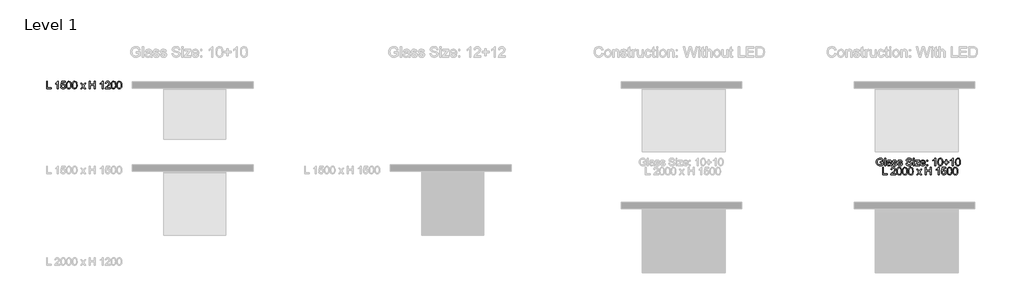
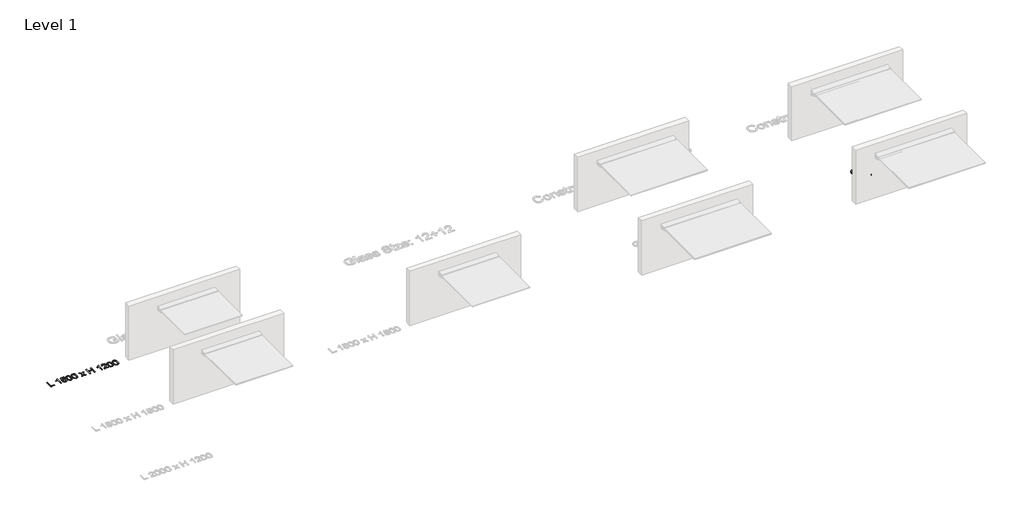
# One storey, part 5 of 7: 2 proxies.
"""IFC4 building model written with IfcOpenShell, lengths in millimetres."""

from ifc_helpers import new_model, si_unit, origin, origin_with_axes, place, context, project, spatial, polyline, outline, extrude, element, save

model = new_model("IFC4")

# Units and contexts
model_context = context("Model", 3, world=origin())
ifc_project = project(units=[si_unit("LENGTHUNIT", "METRE", prefix="MILLI")], contexts=[model_context])

# Site, building, storey
site = spatial("IfcSite", under=ifc_project)
building = spatial("IfcBuilding", under=site)
storey = spatial("IfcBuildingStorey", under=building, Name="Level 1", Elevation=0.0)

# Proxies
placement = place(None, origin())
element("IfcBuildingElementProxy", 1, Name="600mm Arial 3", ObjectType="600mm Arial 3", at=placement, inside=storey, context=model_context, shape_type="SweptSolid", body=[
    extrude(outline(polyline([(2272.1620309, 540.7311212), (2272.1620309, 721.5524795), (2294.7647007, 721.5524795), (2294.7647007, 563.333791), (2385.1753798, 563.333791), (2385.1753798, 540.7311212), (2272.1620309, 540.7311212)])), origin_with_axes(), (0.0, 0.0, 1.0), 5.0),
    extrude(outline(polyline([(2557.5207369, 540.7311212), (2534.9180672, 540.7311212), (2534.9180672, 681.6446406), (2513.507335, 666.3922531), (2489.7127276, 654.9805536), (2489.7127276, 676.3471399), (2522.8441801, 697.492997), (2542.9526099, 721.5524795), (2557.5207369, 721.5524795), (2557.5207369, 540.7311212)])), origin_with_axes(), (0.0, 0.0, 1.0), 5.0),
    extrude(outline(polyline([(2611.2020777, 588.7617945), (2633.8047475, 591.5871282), (2637.9544564, 578.0178008), (2645.194374, 568.3001979), (2655.4913911, 562.4563924), (2668.8123981, 560.5084573), (2685.0139212, 563.2179082), (2697.154027, 571.3462608), (2704.7360749, 583.9554162), (2707.2634243, 600.1072752), (2704.8961036, 615.3155169), (2697.7941417, 626.9479456), (2685.9023562, 634.3313372), (2669.1655648, 636.7924678), (2649.32201, 632.8634881), (2636.6300812, 622.6657992), (2614.0274114, 625.4911329), (2633.8047475, 718.7271457), (2721.3900929, 718.7271457), (2721.3900929, 696.124476), (2652.081125, 696.124476), (2642.3690403, 646.3279691), (2658.5153811, 656.1283454), (2675.434274, 659.3951376), (2696.5580582, 655.3447568), (2714.1060294, 643.1936145), (2725.9260779, 624.6744349), (2729.866094, 601.5199421), (2726.3233904, 578.9172723), (2715.6952796, 559.5813946), (2695.3440476, 543.3246893), (2668.7241064, 537.9057875), (2646.5242674, 541.3877906), (2628.8383405, 551.8337998), (2616.7147894, 568.0298047), (2611.2020777, 588.7617945)])), origin_with_axes(), (0.0, 0.0, 1.0), 5.0),
    extrude(outline(polyline([(2749.6434301, 629.6849876), (2751.3044173, 658.6281036), (2756.2873789, 681.7108594), (2764.5426509, 699.2864217), (2776.0205692, 711.7079573), (2790.8039071, 719.0913489), (2808.9754383, 721.5524795), (2835.3746503, 715.7252287), (2845.8041048, 708.6122303), (2853.6068819, 698.9277368), (2864.2018834, 672.1753581), (2868.3074465, 629.6849876), (2866.6630139, 600.9074186), (2861.7297164, 577.8798451), (2853.5241085, 560.2877281), (2842.0627449, 547.8165284), (2827.2462976, 540.3834727), (2808.9754383, 537.9057875), (2785.4898517, 542.2100068), (2767.6549326, 555.1226649), (2759.7749002, 568.7388972), (2754.1463057, 585.7046951), (2749.6434301, 629.6849876)]), holes=[polyline([(2772.2460999, 629.7291335), (2774.8948502, 594.175178), (2782.8411013, 573.5976986), (2794.6721863, 563.7807676), (2808.9754383, 560.5084573), (2823.2786903, 563.7918041), (2835.1097752, 573.6418445), (2843.0560263, 594.2303603), (2845.7047767, 629.7291335), (2843.144318, 664.4829456), (2835.4629419, 685.2204536), (2823.6539299, 695.5174707), (2808.7105632, 698.9498097), (2794.5618217, 695.9258197), (2783.1942681, 686.8538497), (2774.9831419, 664.8250758), (2772.2460999, 629.7291335)])]), origin_with_axes(), (0.0, 0.0, 1.0), 5.0),
    extrude(outline(polyline([(2888.0847825, 629.6849876), (2889.7457697, 658.6281036), (2894.7287314, 681.7108594), (2902.9840033, 699.2864217), (2914.4619216, 711.7079573), (2929.2452596, 719.0913489), (2947.4167907, 721.5524795), (2973.8160027, 715.7252287), (2984.2454572, 708.6122303), (2992.0482344, 698.9277368), (3002.6432358, 672.1753581), (3006.7487989, 629.6849876), (3005.1043664, 600.9074186), (3000.1710688, 577.8798451), (2991.9654609, 560.2877281), (2980.5040974, 547.8165284), (2965.68765, 540.3834727), (2947.4167907, 537.9057875), (2923.9312041, 542.2100068), (2906.096285, 555.1226649), (2898.2162527, 568.7388972), (2892.5876581, 585.7046951), (2888.0847825, 629.6849876)]), holes=[polyline([(2910.6874523, 629.7291335), (2913.3362027, 594.175178), (2921.2824538, 573.5976986), (2933.1135387, 563.7807676), (2947.4167907, 560.5084573), (2961.7200427, 563.7918041), (2973.5511276, 573.6418445), (2981.4973787, 594.2303603), (2984.1461291, 629.7291335), (2981.5856704, 664.4829456), (2973.9042944, 685.2204536), (2962.0952823, 695.5174707), (2947.1519157, 698.9498097), (2933.0031741, 695.9258197), (2921.6356205, 686.8538497), (2913.4244944, 664.8250758), (2910.6874523, 629.7291335)])]), origin_with_axes(), (0.0, 0.0, 1.0), 5.0),
    extrude(outline(polyline([(3088.6834769, 540.7311212), (3136.9790252, 607.5237762), (3091.5088106, 673.5218062), (3118.614356, 673.5218062), (3140.5548382, 641.692656), (3150.8408188, 626.7272164), (3159.7582783, 638.9997598), (3184.7448234, 673.5218062), (3211.9386605, 673.5218062), (3164.1728623, 607.4796304), (3210.1728269, 540.7311212), (3183.0231357, 540.7311212), (3155.2995485, 580.9038351), (3150.2669228, 588.2761903), (3115.8773139, 540.7311212), (3088.6834769, 540.7311212)])), origin_with_axes(), (0.0, 0.0, 1.0), 5.0),
    extrude(outline(polyline([(3303.4088398, 540.7311212), (3303.4088398, 721.5524795), (3326.0115096, 721.5524795), (3326.0115096, 648.0938027), (3422.0728562, 648.0938027), (3422.0728562, 721.5524795), (3444.6755259, 721.5524795), (3444.6755259, 540.7311212), (3422.0728562, 540.7311212), (3422.0728562, 625.4911329), (3326.0115096, 625.4911329), (3326.0115096, 540.7311212), (3303.4088398, 540.7311212)])), origin_with_axes(), (0.0, 0.0, 1.0), 5.0),
    extrude(outline(polyline([(3631.1475517, 540.7311212), (3608.5448819, 540.7311212), (3608.5448819, 681.6446406), (3587.1341498, 666.3922531), (3563.3395423, 654.9805536), (3563.3395423, 676.3471399), (3596.4709948, 697.492997), (3616.5794247, 721.5524795), (3631.1475517, 721.5524795), (3631.1475517, 540.7311212)])), origin_with_axes(), (0.0, 0.0, 1.0), 5.0),
    extrude(outline(polyline([(3800.667575, 563.333791), (3800.667575, 540.7311212), (3682.0035587, 540.7311212), (3684.4315798, 556.3146025), (3698.1830088, 580.3078662), (3726.5025648, 606.5084219), (3765.5054139, 644.164823), (3772.8060321, 657.1436998), (3775.2395715, 669.7694098), (3772.9384697, 681.0872994), (3766.035164, 690.4958814), (3755.4236079, 696.8363276), (3741.9977544, 698.9498097), (3727.898677, 696.8859917), (3716.9449906, 690.6945377), (3709.876138, 680.861052), (3707.4315622, 667.8711387), (3684.8288924, 670.6964725), (3690.3084947, 692.5596994), (3702.1561344, 708.5294568), (3719.7537696, 718.2967238), (3742.4833587, 721.5524795), (3765.3784947, 717.9325206), (3782.9430205, 707.0726441), (3794.1174361, 690.8490482), (3797.8422413, 671.1379308), (3793.8249699, 649.7051258), (3780.4708535, 627.5439144), (3748.0898803, 596.5756081), (3722.0879809, 574.8337822), (3711.890292, 563.333791), (3800.667575, 563.333791)])), origin_with_axes(), (0.0, 0.0, 1.0), 5.0),
    extrude(outline(polyline([(3823.2702448, 629.6849876), (3824.931232, 658.6281036), (3829.9141937, 681.7108594), (3838.1694656, 699.2864217), (3849.6473839, 711.7079573), (3864.4307219, 719.0913489), (3882.602253, 721.5524795), (3909.001465, 715.7252287), (3919.4309195, 708.6122303), (3927.2336967, 698.9277368), (3937.8286981, 672.1753581), (3941.9342612, 629.6849876), (3940.2898287, 600.9074186), (3935.3565311, 577.8798451), (3927.1509232, 560.2877281), (3915.6895597, 547.8165284), (3900.8731123, 540.3834727), (3882.602253, 537.9057875), (3859.1166664, 542.2100068), (3841.2817473, 555.1226649), (3833.401715, 568.7388972), (3827.7731204, 585.7046951), (3823.2702448, 629.6849876)]), holes=[polyline([(3845.8729146, 629.7291335), (3848.521665, 594.175178), (3856.4679161, 573.5976986), (3868.299001, 563.7807676), (3882.602253, 560.5084573), (3896.905505, 563.7918041), (3908.7365899, 573.6418445), (3916.682841, 594.2303603), (3919.3315914, 629.7291335), (3916.7711327, 664.4829456), (3909.0897567, 685.2204536), (3897.2807446, 695.5174707), (3882.337378, 698.9498097), (3868.1886364, 695.9258197), (3856.8210828, 686.8538497), (3848.6099567, 664.8250758), (3845.8729146, 629.7291335)])]), origin_with_axes(), (0.0, 0.0, 1.0), 5.0),
    extrude(outline(polyline([(3961.7115972, 629.6849876), (3963.3725845, 658.6281036), (3968.3555461, 681.7108594), (3976.6108181, 699.2864217), (3988.0887363, 711.7079573), (4002.8720743, 719.0913489), (4021.0436054, 721.5524795), (4047.4428174, 715.7252287), (4057.872272, 708.6122303), (4065.6750491, 698.9277368), (4076.2700505, 672.1753581), (4080.3756136, 629.6849876), (4078.7311811, 600.9074186), (4073.7978835, 577.8798451), (4065.5922756, 560.2877281), (4054.1309121, 547.8165284), (4039.3144647, 540.3834727), (4021.0436054, 537.9057875), (3997.5580189, 542.2100068), (3979.7230997, 555.1226649), (3971.8430674, 568.7388972), (3966.2144729, 585.7046951), (3961.7115972, 629.6849876)]), holes=[polyline([(3984.314267, 629.7291335), (3986.9630174, 594.175178), (3994.9092685, 573.5976986), (4006.7403535, 563.7807676), (4021.0436054, 560.5084573), (4035.3468574, 563.7918041), (4047.1779424, 573.6418445), (4055.1241935, 594.2303603), (4057.7729438, 629.7291335), (4055.2124851, 664.4829456), (4047.5311091, 685.2204536), (4035.722097, 695.5174707), (4020.7787304, 698.9498097), (4006.6299889, 695.9258197), (3995.2624352, 686.8538497), (3987.0513091, 664.8250758), (3984.314267, 629.7291335)])]), origin_with_axes(), (0.0, 0.0, 1.0), 5.0),
])
element("IfcBuildingElementProxy", 2, Name="600mm Arial 3", ObjectType="600mm Arial 3", at=placement, inside=storey, context=model_context, shape_type="SweptSolid", body=[
    extrude(outline(polyline([(22306.0715057, -1237.1901227), (22306.0715057, -1214.5874529), (22379.5301825, -1214.5874529), (22379.5301825, -1282.174733), (22361.6787087, -1294.5907504), (22343.2643754, -1303.4971735), (22324.3313285, -1308.860893), (22304.9237139, -1310.6487995), (22279.5674473, -1307.8069111), (22256.6502384, -1299.2812458), (22237.6123452, -1285.3697882), (22223.8940256, -1266.3705225), (22215.600126, -1243.5802329), (22212.8354928, -1218.2957034), (22215.5890896, -1192.8290723), (22223.8498798, -1169.1393112), (22237.2757332, -1149.2681652), (22255.5245195, -1135.2573794), (22277.7519497, -1126.9469252), (22303.1137344, -1124.1767737), (22321.7322422, -1125.7825787), (22338.4745518, -1130.5999934), (22352.5736293, -1138.2813694), (22363.2624406, -1148.4790584), (22371.1700641, -1161.6841826), (22376.9255779, -1178.3878646), (22356.0887417, -1184.2592612), (22345.7806882, -1163.3562062), (22328.1664983, -1151.3043921), (22302.7605677, -1146.7794435), (22273.82297, -1151.6575588), (22254.1339256, -1164.4598522), (22242.5014969, -1181.8753859), (22237.2039962, -1198.9377528), (22235.4381626, -1217.3686408), (22237.5626811, -1238.9835474), (22243.9362367, -1256.7688025), (22254.3656913, -1270.5974866), (22268.6579068, -1280.3426807), (22285.3836617, -1286.1202674), (22303.1137344, -1288.0461297), (22334.037895, -1282.2409518), (22356.9275127, -1269.8580438), (22356.9275127, -1237.1901227), (22306.0715057, -1237.1901227)])), origin_with_axes(), (0.0, 0.0, 1.0), 5.0),
    extrude(outline(polyline([(22413.4341871, -1307.8234657), (22413.4341871, -1127.0021075), (22436.0368569, -1127.0021075), (22436.0368569, -1307.8234657), (22413.4341871, -1307.8234657)])), origin_with_axes(), (0.0, 0.0, 1.0), 5.0),
    extrude(outline(polyline([(22554.7008733, -1290.8714634), (22532.782464, -1306.1900697), (22508.5684711, -1310.6487995), (22489.6795701, -1307.9669397), (22475.7460395, -1299.9213605), (22467.1541555, -1287.7039994), (22464.2901942, -1272.5067942), (22468.6164864, -1254.6277292), (22479.9840401, -1241.6488524), (22495.8103235, -1234.2323514), (22515.3669304, -1230.8331218), (22554.5684358, -1223.0634541), (22554.7008733, -1218.0308284), (22553.1447325, -1207.9435041), (22548.4763099, -1201.3437011), (22538.0358189, -1196.4435129), (22523.4897648, -1194.8101168), (22500.62222, -1199.158482), (22494.2100368, -1205.1899073), (22489.7181977, -1214.5874529), (22467.1155279, -1211.7621192), (22476.8938313, -1189.6891995), (22485.2263585, -1182.261662), (22496.5828757, -1176.7544685), (22526.4033902, -1172.207447), (22553.7958836, -1176.2247184), (22569.2690003, -1186.3120427), (22576.1998971, -1201.6527219), (22577.3035431, -1221.430058), (22577.3035431, -1249.5509577), (22578.4513349, -1288.8186819), (22582.9542105, -1307.8234657), (22560.3515407, -1307.8234657), (22554.7008733, -1290.8714634)]), holes=[polyline([(22554.7008733, -1245.6661238), (22518.2364099, -1252.5970206), (22498.7901677, -1256.2611253), (22489.9830727, -1262.2208136), (22486.8928639, -1270.917544), (22488.5759241, -1277.638748), (22493.6251045, -1283.1459415), (22513.3803676, -1288.0461297), (22536.2479124, -1282.6382644), (22550.9926228, -1269.549023), (22554.5684358, -1252.0672706), (22554.7008733, -1245.6661238)])]), origin_with_axes(), (0.0, 0.0, 1.0), 5.0),
    extrude(outline(polyline([(22599.9062129, -1268.2687936), (22622.5088826, -1265.4434599), (22626.0736592, -1275.1113987), (22632.9714466, -1282.2188789), (22643.2463907, -1286.589317), (22656.9426374, -1288.0461297), (22670.4733372, -1286.710718), (22679.9867656, -1282.7044831), (22685.6153601, -1276.8993052), (22687.4915583, -1270.1670647), (22685.6043236, -1264.4060327), (22679.9426197, -1260.0135216), (22656.6777624, -1253.5682291), (22622.6413202, -1242.5096963), (22607.7862452, -1229.5970383), (22602.7315466, -1211.3648066), (22606.7929638, -1194.5231689), (22617.8735695, -1181.6546567), (22632.2430402, -1174.966562), (22651.6892825, -1172.207447), (22679.1921405, -1176.6441039), (22696.6738929, -1188.6517722), (22704.4435606, -1208.9367854), (22681.8408908, -1211.7621192), (22678.987966, -1204.6491208), (22673.3428167, -1199.2909195), (22653.4551161, -1194.8101168), (22631.8236548, -1199.0922632), (22625.3342164, -1209.069223), (22628.0271126, -1215.646953), (22636.4589679, -1220.6354329), (22655.9272831, -1225.4473294), (22689.1028814, -1236.0864767), (22704.5097794, -1248.1382908), (22708.6981159, -1257.0005681), (22710.0942281, -1267.7831894), (22708.4553138, -1278.9300138), (22703.5385709, -1289.4146507), (22695.5316193, -1298.4148837), (22684.6220787, -1305.1084966), (22656.6336165, -1310.6487995), (22633.8433269, -1307.9779762), (22617.2113819, -1299.9655063), (22606.1087033, -1286.6996816), (22599.9062129, -1268.2687936)])), origin_with_axes(), (0.0, 0.0, 1.0), 5.0),
    extrude(outline(polyline([(22727.0462304, -1268.2687936), (22749.6489002, -1265.4434599), (22753.2136767, -1275.1113987), (22760.1114641, -1282.2188789), (22770.3864082, -1286.589317), (22784.0826549, -1288.0461297), (22797.6133547, -1286.710718), (22807.1267831, -1282.7044831), (22812.7553776, -1276.8993052), (22814.6315758, -1270.1670647), (22812.7443412, -1264.4060327), (22807.0826373, -1260.0135216), (22783.8177799, -1253.5682291), (22749.7813377, -1242.5096963), (22734.9262627, -1229.5970383), (22729.8715641, -1211.3648066), (22733.9329813, -1194.5231689), (22745.013587, -1181.6546567), (22759.3830578, -1174.966562), (22778.8293, -1172.207447), (22806.332158, -1176.6441039), (22823.8139104, -1188.6517722), (22831.5835781, -1208.9367854), (22808.9809084, -1211.7621192), (22806.1279835, -1204.6491208), (22800.4828343, -1199.2909195), (22780.5951336, -1194.8101168), (22758.9636723, -1199.0922632), (22752.4742339, -1209.069223), (22755.1671301, -1215.646953), (22763.5989854, -1220.6354329), (22783.0673006, -1225.4473294), (22816.2428989, -1236.0864767), (22831.6497969, -1248.1382908), (22835.8381334, -1257.0005681), (22837.2342456, -1267.7831894), (22835.5953313, -1278.9300138), (22830.6785884, -1289.4146507), (22822.6716368, -1298.4148837), (22811.7620962, -1305.1084966), (22783.7736341, -1310.6487995), (22760.9833445, -1307.9779762), (22744.3513995, -1299.9655063), (22733.2487208, -1286.6996816), (22727.0462304, -1268.2687936)])), origin_with_axes(), (0.0, 0.0, 1.0), 5.0),
    extrude(outline(polyline([(22927.6449247, -1245.6661238), (22950.2475945, -1245.6661238), (22957.531658, -1268.2908665), (22964.8488309, -1276.2922999), (22975.3224313, -1282.5941185), (23002.4279767, -1288.0461297), (23026.0460008, -1283.9184937), (23041.2983883, -1272.573013), (23046.3089411, -1257.4089171), (23042.5565447, -1243.3043214), (23027.1937926, -1233.0404138), (22994.2830693, -1224.4099022), (22958.8560332, -1213.2630777), (22947.6043624, -1205.6589569), (22939.6305201, -1196.4435129), (22934.8793242, -1185.815402), (22933.2955922, -1173.9732806), (22935.2545638, -1160.735047), (22941.1314787, -1148.3907667), (22950.7718264, -1137.9282027), (22964.0210964, -1130.3351183), (22979.9246351, -1125.7163599), (22997.5277885, -1124.1767737), (23016.5987912, -1125.7880969), (23033.2859185, -1130.6220663), (23046.9932016, -1138.5793539), (23057.1246717, -1149.5606314), (23063.5368549, -1162.8816385), (23066.0862772, -1177.8581145), (23043.4836074, -1177.8581145), (23039.3338985, -1164.3715605), (23030.6813139, -1154.6374029), (23017.1616506, -1148.7439334), (22998.4107053, -1146.7794435), (22979.2183016, -1148.7218605), (22966.051805, -1154.5491113), (22958.4366477, -1163.1244406), (22955.898262, -1173.311093), (22957.6972049, -1181.9967869), (22963.0940338, -1188.982866), (22975.8521814, -1195.2295023), (22999.9999555, -1201.6085761), (23039.9960861, -1212.9540568), (23052.8811529, -1221.1541465), (23061.8703495, -1231.2745802), (23067.1512955, -1243.2049933), (23068.9116109, -1256.8350212), (23066.8864205, -1270.7685518), (23060.8108493, -1283.8743479), (23050.9332178, -1295.1536098), (23037.5018461, -1303.6075381), (23021.3499871, -1308.8884841), (23003.3108935, -1310.6487995), (22981.1662368, -1308.7505284), (22962.9395233, -1303.0557151), (22948.4210604, -1293.5422867), (22937.4011552, -1280.1881703), (22930.3267845, -1263.9204284), (22927.6449247, -1245.6661238)])), origin_with_axes(), (0.0, 0.0, 1.0), 5.0),
    extrude(outline(polyline([(23099.9902818, -1149.6047773), (23099.9902818, -1127.0021075), (23122.5929516, -1127.0021075), (23122.5929516, -1149.6047773), (23099.9902818, -1149.6047773)])), origin_with_axes(), (0.0, 0.0, 1.0), 5.0),
    extrude(outline(polyline([(23099.9902818, -1307.8234657), (23099.9902818, -1175.0327808), (23122.5929516, -1175.0327808), (23122.5929516, -1307.8234657), (23099.9902818, -1307.8234657)])), origin_with_axes(), (0.0, 0.0, 1.0), 5.0),
    extrude(outline(polyline([(23142.3702877, -1307.8234657), (23142.3702877, -1286.5451711), (23220.3759859, -1197.6354505), (23197.2877119, -1197.6354505), (23148.0209551, -1197.6354505), (23148.0209551, -1175.0327808), (23252.5583029, -1175.0327808), (23252.5583029, -1194.2362209), (23183.3817725, -1273.124836), (23172.786771, -1285.220796), (23198.921108, -1285.220796), (23255.3836366, -1285.220796), (23255.3836366, -1307.8234657), (23142.3702877, -1307.8234657)])), origin_with_axes(), (0.0, 0.0, 1.0), 5.0),
    extrude(outline(polyline([(23370.9574442, -1268.2687936), (23393.1186556, -1271.0941273), (23385.1337769, -1287.7922911), (23372.392184, -1300.2745272), (23355.1808248, -1308.0552314), (23333.7866474, -1310.6487995), (23307.2660344, -1306.173515), (23286.8596201, -1292.7476616), (23273.8476339, -1271.2431196), (23269.5103052, -1242.5317692), (23273.8917798, -1212.8547287), (23287.0362035, -1190.6604079), (23307.1667062, -1176.8206873), (23332.5064181, -1172.207447), (23357.057023, -1176.8096508), (23376.6743304, -1190.6162621), (23389.5373244, -1212.766437), (23393.824989, -1242.3993317), (23393.6925515, -1248.4914576), (23292.112975, -1248.4914576), (23296.0254, -1265.4103505), (23305.1139247, -1277.8484408), (23318.2307572, -1285.4967075), (23334.2281058, -1288.0461297), (23356.3893172, -1283.3225249), (23364.6225162, -1277.1972896), (23370.9574442, -1268.2687936)]), holes=[polyline([(23292.112975, -1225.8887878), (23371.2223192, -1225.8887878), (23368.1652199, -1213.9473382), (23362.1724222, -1205.4051183), (23348.9948891, -1197.4588672), (23332.4181264, -1194.8101168), (23317.1822936, -1196.9235989), (23304.5841746, -1203.2640451), (23295.8267437, -1213.1471949), (23292.112975, -1225.8887878)])]), origin_with_axes(), (0.0, 0.0, 1.0), 5.0),
    extrude(outline(polyline([(23422.0783262, -1197.6354505), (23422.0783262, -1175.0327808), (23444.680996, -1175.0327808), (23444.680996, -1197.6354505), (23422.0783262, -1197.6354505)])), origin_with_axes(), (0.0, 0.0, 1.0), 5.0),
    extrude(outline(polyline([(23422.0783262, -1307.8234657), (23422.0783262, -1285.220796), (23444.680996, -1285.220796), (23444.680996, -1307.8234657), (23422.0783262, -1307.8234657)])), origin_with_axes(), (0.0, 0.0, 1.0), 5.0),
    extrude(outline(polyline([(23636.8036892, -1307.8234657), (23614.2010194, -1307.8234657), (23614.2010194, -1166.9099463), (23592.7902873, -1182.1623338), (23568.9956798, -1193.5740333), (23568.9956798, -1172.207447), (23602.1271323, -1151.06159), (23622.2355622, -1127.0021075), (23636.8036892, -1127.0021075), (23636.8036892, -1307.8234657)])), origin_with_axes(), (0.0, 0.0, 1.0), 5.0),
    extrude(outline(polyline([(23690.4850299, -1218.8695993), (23692.1460171, -1189.9264833), (23697.1289788, -1166.8437275), (23705.3842507, -1149.2681652), (23716.862169, -1136.8466297), (23731.645507, -1129.463238), (23749.8170381, -1127.0021075), (23776.2162501, -1132.8293583), (23786.6457046, -1139.9423567), (23794.4484818, -1149.6268502), (23805.0434832, -1176.3792289), (23809.1490463, -1218.8695993), (23807.5046138, -1247.6471684), (23802.5713162, -1270.6747419), (23794.3657083, -1288.2668589), (23782.9043448, -1300.7380585), (23768.0878974, -1308.1711142), (23749.8170381, -1310.6487995), (23726.3314515, -1306.3445801), (23708.4965324, -1293.4319221), (23700.6165001, -1279.8156897), (23694.9879055, -1262.8498918), (23690.4850299, -1218.8695993)]), holes=[polyline([(23713.0876997, -1218.8254535), (23715.7364501, -1254.3794089), (23723.6827012, -1274.9568883), (23735.5137861, -1284.7738193), (23749.8170381, -1288.0461297), (23764.1202901, -1284.7627829), (23775.951375, -1274.9127425), (23783.8976261, -1254.3242266), (23786.5463765, -1218.8254535), (23783.9859178, -1184.0716414), (23776.3045418, -1163.3341333), (23764.4955297, -1153.0371163), (23749.5521631, -1149.6047773), (23735.4034215, -1152.6287673), (23724.0358679, -1161.7007373), (23715.8247418, -1183.7295111), (23713.0876997, -1218.8254535)])]), origin_with_axes(), (0.0, 0.0, 1.0), 5.0),
    extrude(outline(polyline([(23879.7823894, -1279.5701285), (23879.7823894, -1231.5394552), (23831.7517161, -1231.5394552), (23831.7517161, -1208.9367854), (23879.7823894, -1208.9367854), (23879.7823894, -1160.9061121), (23902.3850591, -1160.9061121), (23902.3850591, -1208.9367854), (23950.4157324, -1208.9367854), (23950.4157324, -1231.5394552), (23902.3850591, -1231.5394552), (23902.3850591, -1279.5701285), (23879.7823894, -1279.5701285)])), origin_with_axes(), (0.0, 0.0, 1.0), 5.0),
    extrude(outline(polyline([(24060.6037476, -1307.8234657), (24038.0010778, -1307.8234657), (24038.0010778, -1166.9099463), (24016.5903457, -1182.1623338), (23992.7957383, -1193.5740333), (23992.7957383, -1172.207447), (24025.9271908, -1151.06159), (24046.0356206, -1127.0021075), (24060.6037476, -1127.0021075), (24060.6037476, -1307.8234657)])), origin_with_axes(), (0.0, 0.0, 1.0), 5.0),
    extrude(outline(polyline([(24114.2850884, -1218.8695993), (24115.9460756, -1189.9264833), (24120.9290372, -1166.8437275), (24129.1843092, -1149.2681652), (24140.6622274, -1136.8466297), (24155.4455654, -1129.463238), (24173.6170966, -1127.0021075), (24200.0163085, -1132.8293583), (24210.4457631, -1139.9423567), (24218.2485402, -1149.6268502), (24228.8435417, -1176.3792289), (24232.9491047, -1218.8695993), (24231.3046722, -1247.6471684), (24226.3713747, -1270.6747419), (24218.1657668, -1288.2668589), (24206.7044032, -1300.7380585), (24191.8879558, -1308.1711142), (24173.6170966, -1310.6487995), (24150.13151, -1306.3445801), (24132.2965909, -1293.4319221), (24124.4165585, -1279.8156897), (24118.787964, -1262.8498918), (24114.2850884, -1218.8695993)]), holes=[polyline([(24136.8877582, -1218.8254535), (24139.5365085, -1254.3794089), (24147.4827596, -1274.9568883), (24159.3138446, -1284.7738193), (24173.6170966, -1288.0461297), (24187.9203485, -1284.7627829), (24199.7514335, -1274.9127425), (24207.6976846, -1254.3242266), (24210.346435, -1218.8254535), (24207.7859763, -1184.0716414), (24200.1046002, -1163.3341333), (24188.2955882, -1153.0371163), (24173.3522215, -1149.6047773), (24159.20348, -1152.6287673), (24147.8359263, -1161.7007373), (24139.6248002, -1183.7295111), (24136.8877582, -1218.8254535)])]), origin_with_axes(), (0.0, 0.0, 1.0), 5.0),
    extrude(outline(polyline([(22362.5781801, -1527.3781379), (22362.5781801, -1346.5567796), (22385.1808499, -1346.5567796), (22385.1808499, -1504.7754681), (22475.5915291, -1504.7754681), (22475.5915291, -1527.3781379), (22362.5781801, -1527.3781379)])), origin_with_axes(), (0.0, 0.0, 1.0), 5.0),
    extrude(outline(polyline([(22679.0155571, -1504.7754681), (22679.0155571, -1527.3781379), (22560.3515407, -1527.3781379), (22562.7795619, -1511.7946565), (22576.5309909, -1487.8013928), (22604.8505469, -1461.6008371), (22643.853396, -1423.9444361), (22651.1540142, -1410.9655593), (22653.5875536, -1398.3398492), (22651.2864517, -1387.0219597), (22644.3831461, -1377.6133776), (22633.7715899, -1371.2729314), (22620.3457365, -1369.1594494), (22606.2466591, -1371.2232674), (22595.2929726, -1377.4147213), (22588.2241201, -1387.2482071), (22585.7795442, -1400.2381203), (22563.1768745, -1397.4127866), (22568.6564768, -1375.5495596), (22580.5041164, -1359.5798022), (22598.1017517, -1349.8125353), (22620.8313407, -1346.5567796), (22643.7264767, -1350.1767384), (22661.2910026, -1361.0366149), (22672.4654182, -1377.2602109), (22676.1902234, -1396.9713282), (22672.172952, -1418.4041333), (22658.8188356, -1440.5653446), (22626.4378624, -1471.533651), (22600.4359629, -1493.2754769), (22590.238274, -1504.7754681), (22679.0155571, -1504.7754681)])), origin_with_axes(), (0.0, 0.0, 1.0), 5.0),
    extrude(outline(polyline([(22701.6182269, -1438.4242714), (22703.2792141, -1409.4811555), (22708.2621757, -1386.3983997), (22716.5174477, -1368.8228374), (22727.9953659, -1356.4013018), (22742.7787039, -1349.0179101), (22760.9502351, -1346.5567796), (22787.349447, -1352.3840304), (22797.7789016, -1359.4970288), (22805.5816787, -1369.1815223), (22816.1766802, -1395.933901), (22820.2822433, -1438.4242714), (22818.6378107, -1467.2018405), (22813.7045132, -1490.229414), (22805.4989053, -1507.821531), (22794.0375417, -1520.2927306), (22779.2210944, -1527.7257863), (22760.9502351, -1530.2034716), (22737.4646485, -1525.8992522), (22719.6297294, -1512.9865942), (22711.749697, -1499.3703619), (22706.1211025, -1482.404564), (22701.6182269, -1438.4242714)]), holes=[polyline([(22724.2208967, -1438.3801256), (22726.869647, -1473.934081), (22734.8158981, -1494.5115604), (22746.6469831, -1504.3284915), (22760.9502351, -1507.6008018), (22775.253487, -1504.317455), (22787.084572, -1494.4674146), (22795.0308231, -1473.8788987), (22797.6795735, -1438.3801256), (22795.1191148, -1403.6263135), (22787.4377387, -1382.8888054), (22775.6287267, -1372.5917884), (22760.68536, -1369.1594494), (22746.5366185, -1372.1834394), (22735.1690649, -1381.2554094), (22726.9579387, -1403.2841832), (22724.2208967, -1438.3801256)])]), origin_with_axes(), (0.0, 0.0, 1.0), 5.0),
    extrude(outline(polyline([(22840.0595793, -1438.4242714), (22841.7205665, -1409.4811555), (22846.7035281, -1386.3983997), (22854.9588001, -1368.8228374), (22866.4367184, -1356.4013018), (22881.2200563, -1349.0179101), (22899.3915875, -1346.5567796), (22925.7907995, -1352.3840304), (22936.220254, -1359.4970288), (22944.0230312, -1369.1815223), (22954.6180326, -1395.933901), (22958.7235957, -1438.4242714), (22957.0791632, -1467.2018405), (22952.1458656, -1490.229414), (22943.9402577, -1507.821531), (22932.4788941, -1520.2927306), (22917.6624468, -1527.7257863), (22899.3915875, -1530.2034716), (22875.9060009, -1525.8992522), (22858.0710818, -1512.9865942), (22850.1910495, -1499.3703619), (22844.5624549, -1482.404564), (22840.0595793, -1438.4242714)]), holes=[polyline([(22862.6622491, -1438.3801256), (22865.3109995, -1473.934081), (22873.2572506, -1494.5115604), (22885.0883355, -1504.3284915), (22899.3915875, -1507.6008018), (22913.6948395, -1504.317455), (22925.5259244, -1494.4674146), (22933.4721755, -1473.8788987), (22936.1209259, -1438.3801256), (22933.5604672, -1403.6263135), (22925.8790912, -1382.8888054), (22914.0700791, -1372.5917884), (22899.1267125, -1369.1594494), (22884.9779709, -1372.1834394), (22873.6104173, -1381.2554094), (22865.3992911, -1403.2841832), (22862.6622491, -1438.3801256)])]), origin_with_axes(), (0.0, 0.0, 1.0), 5.0),
    extrude(outline(polyline([(22978.5009317, -1438.4242714), (22980.1619189, -1409.4811555), (22985.1448806, -1386.3983997), (22993.4001525, -1368.8228374), (23004.8780708, -1356.4013018), (23019.6614088, -1349.0179101), (23037.8329399, -1346.5567796), (23064.2321519, -1352.3840304), (23074.6616065, -1359.4970288), (23082.4643836, -1369.1815223), (23093.059385, -1395.933901), (23097.1649481, -1438.4242714), (23095.5205156, -1467.2018405), (23090.587218, -1490.229414), (23082.3816101, -1507.821531), (23070.9202466, -1520.2927306), (23056.1037992, -1527.7257863), (23037.8329399, -1530.2034716), (23014.3473534, -1525.8992522), (22996.5124342, -1512.9865942), (22988.6324019, -1499.3703619), (22983.0038074, -1482.404564), (22978.5009317, -1438.4242714)]), holes=[polyline([(23001.1036015, -1438.3801256), (23003.7523519, -1473.934081), (23011.698603, -1494.5115604), (23023.529688, -1504.3284915), (23037.8329399, -1507.6008018), (23052.1361919, -1504.317455), (23063.9672769, -1494.4674146), (23071.913528, -1473.8788987), (23074.5622783, -1438.3801256), (23072.0018196, -1403.6263135), (23064.3204436, -1382.8888054), (23052.5114315, -1372.5917884), (23037.5680649, -1369.1594494), (23023.4193234, -1372.1834394), (23012.0517697, -1381.2554094), (23003.8406436, -1403.2841832), (23001.1036015, -1438.3801256)])]), origin_with_axes(), (0.0, 0.0, 1.0), 5.0),
    extrude(outline(polyline([(23179.0996261, -1527.3781379), (23227.3951744, -1460.5854828), (23181.9249598, -1394.5874529), (23209.0305052, -1394.5874529), (23230.9709874, -1426.4166031), (23241.256968, -1441.3820427), (23250.1744275, -1429.1094993), (23275.1609727, -1394.5874529), (23302.3548097, -1394.5874529), (23254.5890115, -1460.6296287), (23300.5889762, -1527.3781379), (23273.4392849, -1527.3781379), (23245.7156978, -1487.205424), (23240.6830721, -1479.8330688), (23206.2934632, -1527.3781379), (23179.0996261, -1527.3781379)])), origin_with_axes(), (0.0, 0.0, 1.0), 5.0),
    extrude(outline(polyline([(23393.824989, -1527.3781379), (23393.824989, -1346.5567796), (23416.4276588, -1346.5567796), (23416.4276588, -1420.0154564), (23512.4890054, -1420.0154564), (23512.4890054, -1346.5567796), (23535.0916752, -1346.5567796), (23535.0916752, -1527.3781379), (23512.4890054, -1527.3781379), (23512.4890054, -1442.6181262), (23416.4276588, -1442.6181262), (23416.4276588, -1527.3781379), (23393.824989, -1527.3781379)])), origin_with_axes(), (0.0, 0.0, 1.0), 5.0),
    extrude(outline(polyline([(23721.5637009, -1527.3781379), (23698.9610311, -1527.3781379), (23698.9610311, -1386.4646184), (23677.550299, -1401.717006), (23653.7556915, -1413.1287054), (23653.7556915, -1391.7621192), (23686.887144, -1370.6162621), (23706.9955739, -1346.5567796), (23721.5637009, -1346.5567796), (23721.5637009, -1527.3781379)])), origin_with_axes(), (0.0, 0.0, 1.0), 5.0),
    extrude(outline(polyline([(23775.2450416, -1479.3474646), (23797.8477114, -1476.5221308), (23801.9974203, -1490.0914582), (23809.237338, -1499.8090611), (23819.534355, -1505.6528666), (23832.8553621, -1507.6008018), (23849.0568851, -1504.8913509), (23861.196991, -1496.7629982), (23868.7790389, -1484.1538428), (23871.3063882, -1468.0019838), (23868.9390676, -1452.7937422), (23861.8371056, -1441.1613135), (23849.9453201, -1433.7779218), (23833.2085288, -1431.3167913), (23813.364974, -1435.245771), (23800.6730451, -1445.4434599), (23778.0703753, -1442.6181262), (23797.8477114, -1349.3821133), (23885.4330568, -1349.3821133), (23885.4330568, -1371.9847831), (23816.1240889, -1371.9847831), (23806.4120042, -1421.78129), (23822.558345, -1411.9809136), (23839.477238, -1408.7141215), (23860.6010221, -1412.7645023), (23878.1489933, -1424.9156446), (23889.9690418, -1443.4348242), (23893.909058, -1466.589317), (23890.3663544, -1489.1919868), (23879.7382435, -1508.5278644), (23859.3870116, -1524.7845698), (23832.7670704, -1530.2034716), (23810.5672314, -1526.7214685), (23792.8813045, -1516.2754592), (23780.7577533, -1500.0794544), (23775.2450416, -1479.3474646)])), origin_with_axes(), (0.0, 0.0, 1.0), 5.0),
    extrude(outline(polyline([(23913.686394, -1438.4242714), (23915.3473812, -1409.4811555), (23920.3303429, -1386.3983997), (23928.5856148, -1368.8228374), (23940.0635331, -1356.4013018), (23954.8468711, -1349.0179101), (23973.0184022, -1346.5567796), (23999.4176142, -1352.3840304), (24009.8470688, -1359.4970288), (24017.6498459, -1369.1815223), (24028.2448473, -1395.933901), (24032.3504104, -1438.4242714), (24030.7059779, -1467.2018405), (24025.7726803, -1490.229414), (24017.5670724, -1507.821531), (24006.1057089, -1520.2927306), (23991.2892615, -1527.7257863), (23973.0184022, -1530.2034716), (23949.5328156, -1525.8992522), (23931.6978965, -1512.9865942), (23923.8178642, -1499.3703619), (23918.1892697, -1482.404564), (23913.686394, -1438.4242714)]), holes=[polyline([(23936.2890638, -1438.3801256), (23938.9378142, -1473.934081), (23946.8840653, -1494.5115604), (23958.7151502, -1504.3284915), (23973.0184022, -1507.6008018), (23987.3216542, -1504.317455), (23999.1527392, -1494.4674146), (24007.0989903, -1473.8788987), (24009.7477406, -1438.3801256), (24007.1872819, -1403.6263135), (23999.5059059, -1382.8888054), (23987.6968938, -1372.5917884), (23972.7535272, -1369.1594494), (23958.6047857, -1372.1834394), (23947.237232, -1381.2554094), (23939.0261059, -1403.2841832), (23936.2890638, -1438.3801256)])]), origin_with_axes(), (0.0, 0.0, 1.0), 5.0),
    extrude(outline(polyline([(24052.1277465, -1438.4242714), (24053.7887337, -1409.4811555), (24058.7716953, -1386.3983997), (24067.0269673, -1368.8228374), (24078.5048855, -1356.4013018), (24093.2882235, -1349.0179101), (24111.4597546, -1346.5567796), (24137.8589666, -1352.3840304), (24148.2884212, -1359.4970288), (24156.0911983, -1369.1815223), (24166.6861998, -1395.933901), (24170.7917628, -1438.4242714), (24169.1473303, -1467.2018405), (24164.2140328, -1490.229414), (24156.0084249, -1507.821531), (24144.5470613, -1520.2927306), (24129.7306139, -1527.7257863), (24111.4597546, -1530.2034716), (24087.9741681, -1525.8992522), (24070.1392489, -1512.9865942), (24062.2592166, -1499.3703619), (24056.6306221, -1482.404564), (24052.1277465, -1438.4242714)]), holes=[polyline([(24074.7304162, -1438.3801256), (24077.3791666, -1473.934081), (24085.3254177, -1494.5115604), (24097.1565027, -1504.3284915), (24111.4597546, -1507.6008018), (24125.7630066, -1504.317455), (24137.5940916, -1494.4674146), (24145.5403427, -1473.8788987), (24148.189093, -1438.3801256), (24145.6286344, -1403.6263135), (24137.9472583, -1382.8888054), (24126.1382463, -1372.5917884), (24111.1948796, -1369.1594494), (24097.0461381, -1372.1834394), (24085.6785844, -1381.2554094), (24077.4674583, -1403.2841832), (24074.7304162, -1438.3801256)])]), origin_with_axes(), (0.0, 0.0, 1.0), 5.0),
])

save(model, "model.ifc")
